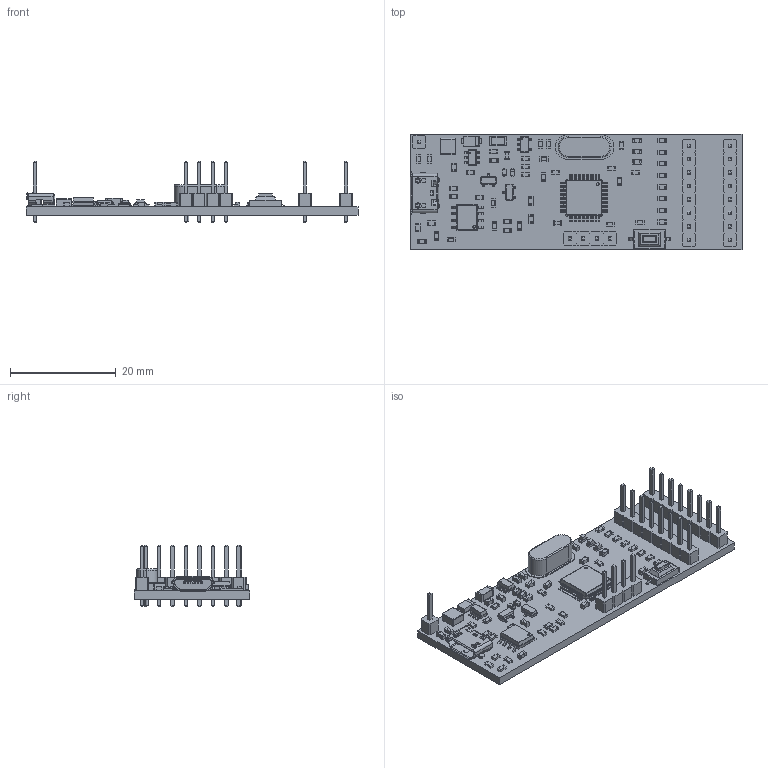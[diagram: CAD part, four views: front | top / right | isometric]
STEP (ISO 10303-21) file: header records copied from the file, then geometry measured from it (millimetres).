
FILE_DESCRIPTION(('KiCad electronic assembly'),'2;1');
FILE_NAME('EasyPDK-Programmer.step','2020-05-14T04:47:01',('An Author'), ('A Company'),'Open CASCADE STEP processor 7.3', 'KiCad to STEP converter','Unknown');
FILE_SCHEMA(('AUTOMOTIVE_DESIGN { 1 0 10303 214 1 1 1 1 }'));
Length unit declared in the file: millimetre
Products named in the file (38): Open CASCADE STEP translator 7.3 1; LQFP-48_7x7mm_P0.5mm; SOLID; PinHeader_1x01_P2.54mm_Vertical; R_0603_1608Metric; PinHeader_1x04_P2.54mm_Vertical; C_0603_1608Metric; C_1206_3216Metric; D_SOD-523; D_PowerDI-123; PinHeader_1x08_P2.54mm_Vertical; Crystal_HC49-4H_Vertical; SW_SPST_CK_RS282G05A3; L_Wuerth_MAPI-3015; SOT-23; USB_Micro-B_Molex_47346-0001; MT3608; COMPOUND; AS358AMTR-E1; RT9193-33GB; LED_0603_1608Metric
Assembly tree (85 placements, depth 3):
  Open CASCADE STEP translator 7.3 1
    LQFP-48_7x7mm_P0.5mm
      SOLID
    PinHeader_1x01_P2.54mm_Vertical
      SOLID
    R_0603_1608Metric  x26
      SOLID
    PinHeader_1x04_P2.54mm_Vertical
      SOLID
    C_0603_1608Metric  x19
      SOLID
    C_1206_3216Metric
      SOLID
    D_SOD-523  x2
      SOLID
    D_PowerDI-123
      SOLID
    PinHeader_1x08_P2.54mm_Vertical  x2
      SOLID
    Crystal_HC49-4H_Vertical
      SOLID
    SW_SPST_CK_RS282G05A3
      SOLID
    L_Wuerth_MAPI-3015
      SOLID
    SOT-23  x2
      SOLID
    USB_Micro-B_Molex_47346-0001
      SOLID
    MT3608
      COMPOUND
    AS358AMTR-E1
      COMPOUND
    RT9193-33GB
      COMPOUND
    LED_0603_1608Metric  x3
      SOLID
    COMPOUND
Bounding box: 62.77 x 21.84 x 11.54 mm (x, y, z)
Volume: 2975.5 mm3; surface area: 5430 mm2
Topology: 86 solids, 86 shells, 3916 faces, 10201 edges, 6540 vertices
Faces by surface type: plane 2781, cylinder 959, bspline 164, sphere 8, torus 4
Full cylindrical faces by diameter (mm): 0.2 x2, 0.487 x1, 0.5 x3, 0.8 x2, 0.85 x2, 1 x21
Entity records: 182953 total; most frequent: CARTESIAN_POINT 43255, DIRECTION 23186, LINE 15877, VECTOR 15877, ORIENTED_EDGE 12442, PCURVE 12442, DEFINITIONAL_REPRESENTATION 12442, EDGE_CURVE 6221
